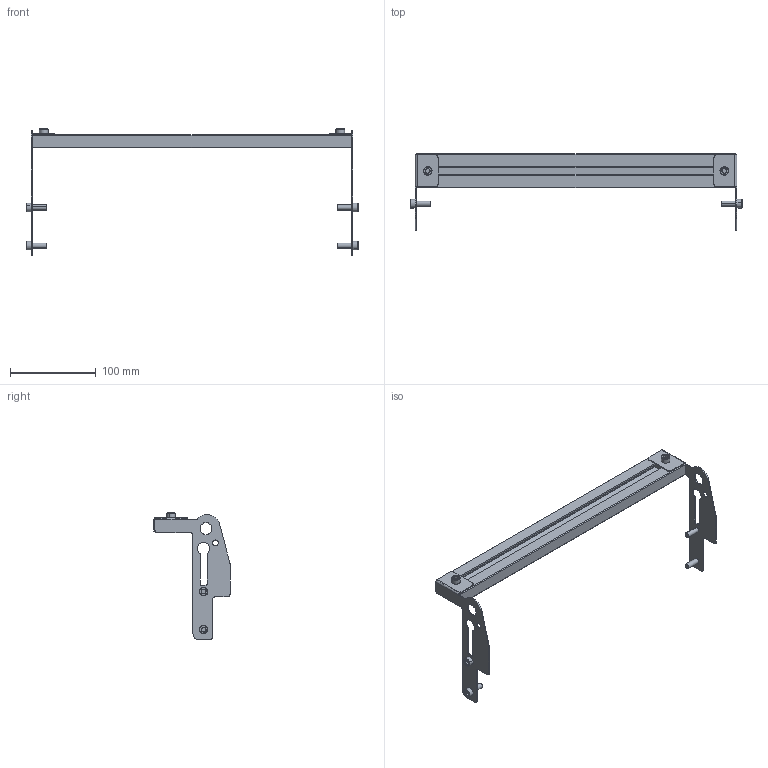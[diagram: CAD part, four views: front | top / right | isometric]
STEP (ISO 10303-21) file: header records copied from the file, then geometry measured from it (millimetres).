
FILE_DESCRIPTION((''),'2;1');
FILE_NAME('207213-14_ASM','2016-08-17T',('adam.dellomodarme'),(''),'PRO/ENGINEER BY PARAMETRIC TECHNOLOGY CORPORATION, 2012420','PRO/ENGINEER BY PARAMETRIC TECHNOLOGY CORPORATION, 2012420','');
FILE_SCHEMA(('CONFIG_CONTROL_DESIGN'));
Length unit declared in the file: inch
Products named in the file (8): 834-019; 207130-RH; 9206XXM_920612M; 9206XXM_920618M; 207130-LH; 207216-WW_207216-14; ASM0001_ASM; 207213-14_ASM
Assembly tree (12 placements, depth 3):
  207213-14_ASM
    ASM0001_ASM
      834-019  x2
      207130-RH
      9206XXM_920612M  x2
      9206XXM_920618M  x4
      207130-LH
      207216-WW_207216-14
Bounding box: 386.95 x 88.64 x 147.81 mm (x, y, z)
Volume: 124602 mm3; surface area: 118401.1 mm2
Topology: 11 solids, 11 shells, 344 faces, 843 edges, 533 vertices
Faces by surface type: plane 146, cylinder 132, cone 66
Entity records: 7864 total; most frequent: CARTESIAN_POINT 1463, DIRECTION 1396, ORIENTED_EDGE 1258, EDGE_CURVE 629, AXIS2_PLACEMENT_3D 524, VERTEX_POINT 409, VECTOR 348, LINE 348
